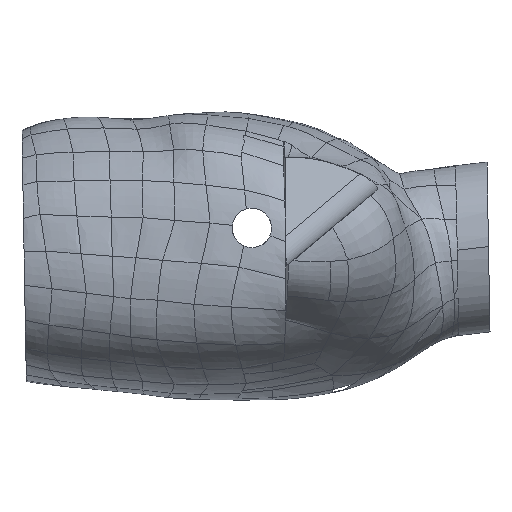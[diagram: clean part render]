
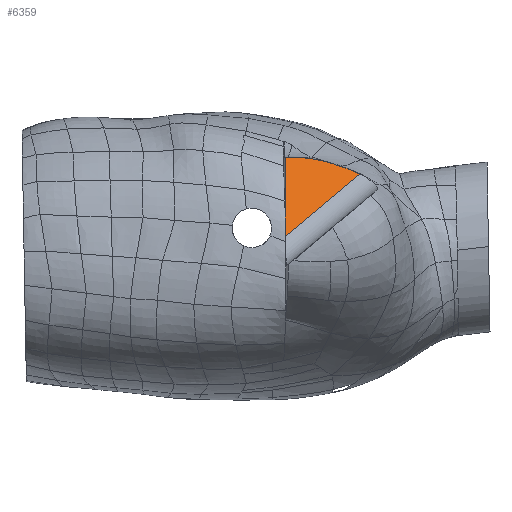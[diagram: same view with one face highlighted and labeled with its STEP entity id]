
A CAD part, left-side view. The second image highlights one B-rep face of the part: STEP entity #6359.
In plain terms, the highlighted planar face has unit normal (-0.94, -0.262, 0.22).
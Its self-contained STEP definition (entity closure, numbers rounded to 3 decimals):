
#15=PLANE('',#6608);
#251=FACE_OUTER_BOUND('',#687,.T.);
#687=EDGE_LOOP('',(#4607,#4608,#4609,#4610,#4611,#4612,#4613,#4614,#4615,
#4616,#4617));
#1279=B_SPLINE_CURVE_WITH_KNOTS('',3,(#36941,#36942,#36943,#36944,#36945,
#36946),.UNSPECIFIED.,.F.,.F.,(4,2,4),(0.,0.178,
0.317),.UNSPECIFIED.);
#1366=B_SPLINE_CURVE_WITH_KNOTS('',3,(#44841,#44842,#44843,#44844,#44845,
#44846),.UNSPECIFIED.,.F.,.F.,(4,2,4),(-1.02,-0.499,
0.),.UNSPECIFIED.);
#1368=B_SPLINE_CURVE_WITH_KNOTS('',3,(#45007,#45008,#45009,#45010,#45011,
#45012),.UNSPECIFIED.,.F.,.F.,(4,2,4),(-0.3,-0.15,
0.),.UNSPECIFIED.);
#1370=B_SPLINE_CURVE_WITH_KNOTS('',3,(#45440,#45441,#45442,#45443,#45444,
#45445,#45446,#45447),.UNSPECIFIED.,.F.,.F.,(4,2,2,4),(-0.208,
-0.116,-0.071,0.),
 .UNSPECIFIED.);
#1371=B_SPLINE_CURVE_WITH_KNOTS('',3,(#45449,#45450,#45451,#45452,#45453,
#45454,#45455,#45456),.UNSPECIFIED.,.F.,.F.,(4,2,2,4),(-0.94,
-0.628,-0.409,0.),
 .UNSPECIFIED.);
#1372=B_SPLINE_CURVE_WITH_KNOTS('',3,(#45457,#45458,#45459,#45460,#45461,
#45462,#45463,#45464,#45465,#45466),.UNSPECIFIED.,.F.,.F.,(4,2,2,2,4),(-0.809,
-0.397,-0.195,-0.097,0.),
 .UNSPECIFIED.);
#1373=B_SPLINE_CURVE_WITH_KNOTS('',3,(#45533,#45534,#45535,#45536,#45537,
#45538),.UNSPECIFIED.,.F.,.F.,(4,2,4),(0.061,2.101,
4.452),.UNSPECIFIED.);
#1375=B_SPLINE_CURVE_WITH_KNOTS('',3,(#45693,#45694,#45695,#45696,#45697,
#45698,#45699,#45700),.UNSPECIFIED.,.F.,.F.,(4,2,2,4),(-0.829,
-0.447,-0.314,-0.02),
 .UNSPECIFIED.);
#1434=B_SPLINE_CURVE_WITH_KNOTS('',3,(#51255,#51256,#51257,#51258,#51259,
#51260),.UNSPECIFIED.,.F.,.F.,(4,2,4),(0.001,0.431,
0.882),.UNSPECIFIED.);
#1435=B_SPLINE_CURVE_WITH_KNOTS('',3,(#51261,#51262,#51263,#51264,#51265,
#51266,#51267,#51268),.UNSPECIFIED.,.F.,.F.,(4,2,2,4),(0.001,
0.23,0.669,1.497),.UNSPECIFIED.);
#1934=LINE('',#51253,#1970);
#1970=VECTOR('',#6666,10.);
#2189=VERTEX_POINT('',#29535);
#2237=VERTEX_POINT('',#36940);
#2284=VERTEX_POINT('',#44832);
#2285=VERTEX_POINT('',#44840);
#2286=VERTEX_POINT('',#45006);
#2287=VERTEX_POINT('',#45439);
#2288=VERTEX_POINT('',#45448);
#2289=VERTEX_POINT('',#45531);
#2291=VERTEX_POINT('',#45676);
#2322=VERTEX_POINT('',#51252);
#2323=VERTEX_POINT('',#51254);
#2987=EDGE_CURVE('',#2237,#2189,#1279,.T.);
#3075=EDGE_CURVE('',#2285,#2284,#1366,.T.);
#3077=EDGE_CURVE('',#2284,#2286,#1368,.T.);
#3079=EDGE_CURVE('',#2287,#2237,#1370,.T.);
#3080=EDGE_CURVE('',#2288,#2287,#1371,.T.);
#3081=EDGE_CURVE('',#2286,#2288,#1372,.T.);
#3083=EDGE_CURVE('',#2189,#2289,#1373,.T.);
#3085=EDGE_CURVE('',#2289,#2291,#1375,.T.);
#3145=EDGE_CURVE('',#2291,#2322,#1934,.T.);
#3146=EDGE_CURVE('',#2323,#2322,#1434,.T.);
#3147=EDGE_CURVE('',#2285,#2323,#1435,.T.);
#4607=ORIENTED_EDGE('',*,*,#3083,.T.);
#4608=ORIENTED_EDGE('',*,*,#3085,.T.);
#4609=ORIENTED_EDGE('',*,*,#3145,.T.);
#4610=ORIENTED_EDGE('',*,*,#3146,.F.);
#4611=ORIENTED_EDGE('',*,*,#3147,.F.);
#4612=ORIENTED_EDGE('',*,*,#3075,.T.);
#4613=ORIENTED_EDGE('',*,*,#3077,.T.);
#4614=ORIENTED_EDGE('',*,*,#3081,.T.);
#4615=ORIENTED_EDGE('',*,*,#3080,.T.);
#4616=ORIENTED_EDGE('',*,*,#3079,.T.);
#4617=ORIENTED_EDGE('',*,*,#2987,.T.);
#6359=ADVANCED_FACE('',(#251),#15,.T.);
#6608=AXIS2_PLACEMENT_3D('',#51251,#6664,#6665);
#6664=DIRECTION('center_axis',(-0.94,-0.262,0.22));
#6665=DIRECTION('ref_axis',(0.228,0.,0.974));
#6666=DIRECTION('',(0.342,-0.72,0.604));
#29535=CARTESIAN_POINT('',(65.322,-214.946,-37.277));
#36940=CARTESIAN_POINT('',(67.231,-221.616,-37.08));
#36941=CARTESIAN_POINT('Ctrl Pts',(67.231,-221.616,-37.08));
#36942=CARTESIAN_POINT('Ctrl Pts',(67.063,-221.05,-37.125));
#36943=CARTESIAN_POINT('Ctrl Pts',(66.643,-219.639,-37.24));
#36944=CARTESIAN_POINT('Ctrl Pts',(65.921,-217.135,-37.34));
#36945=CARTESIAN_POINT('Ctrl Pts',(65.793,-216.661,-37.323));
#36946=CARTESIAN_POINT('Ctrl Pts',(65.48,-215.519,-37.299));
#44832=CARTESIAN_POINT('',(73.735,-247.84,-40.536));
#44840=CARTESIAN_POINT('',(75.299,-255.252,-42.73));
#44841=CARTESIAN_POINT('Ctrl Pts',(75.291,-255.257,-42.72));
#44842=CARTESIAN_POINT('Ctrl Pts',(75.051,-254.069,-42.331));
#44843=CARTESIAN_POINT('Ctrl Pts',(74.814,-252.906,-41.958));
#44844=CARTESIAN_POINT('Ctrl Pts',(74.299,-250.446,-41.227));
#44845=CARTESIAN_POINT('Ctrl Pts',(74.081,-249.417,-40.934));
#44846=CARTESIAN_POINT('Ctrl Pts',(73.734,-247.84,-40.536));
#45006=CARTESIAN_POINT('',(73.098,-244.989,-39.858));
#45007=CARTESIAN_POINT('Ctrl Pts',(73.734,-247.84,-40.536));
#45008=CARTESIAN_POINT('Ctrl Pts',(73.63,-247.365,-40.416));
#45009=CARTESIAN_POINT('Ctrl Pts',(73.525,-246.89,-40.3));
#45010=CARTESIAN_POINT('Ctrl Pts',(73.313,-245.94,-40.074));
#45011=CARTESIAN_POINT('Ctrl Pts',(73.206,-245.465,-39.964));
#45012=CARTESIAN_POINT('Ctrl Pts',(73.098,-244.99,-39.859));
#45439=CARTESIAN_POINT('',(69.567,-230.37,-37.528));
#45440=CARTESIAN_POINT('Ctrl Pts',(69.567,-230.37,-37.528));
#45441=CARTESIAN_POINT('Ctrl Pts',(69.211,-228.954,-37.364));
#45442=CARTESIAN_POINT('Ctrl Pts',(68.77,-227.22,-37.184));
#45443=CARTESIAN_POINT('Ctrl Pts',(68.199,-225.05,-37.037));
#45444=CARTESIAN_POINT('Ctrl Pts',(68.002,-224.315,-37.002));
#45445=CARTESIAN_POINT('Ctrl Pts',(67.494,-222.483,-36.989));
#45446=CARTESIAN_POINT('Ctrl Pts',(67.3,-221.841,-37.056));
#45447=CARTESIAN_POINT('Ctrl Pts',(67.231,-221.616,-37.079));
#45448=CARTESIAN_POINT('',(71.422,-237.818,-38.475));
#45449=CARTESIAN_POINT('Ctrl Pts',(71.422,-237.818,-38.475));
#45450=CARTESIAN_POINT('Ctrl Pts',(71.285,-237.265,-38.403));
#45451=CARTESIAN_POINT('Ctrl Pts',(71.172,-236.816,-38.35));
#45452=CARTESIAN_POINT('Ctrl Pts',(70.829,-235.438,-38.173));
#45453=CARTESIAN_POINT('Ctrl Pts',(70.728,-235.03,-38.119));
#45454=CARTESIAN_POINT('Ctrl Pts',(70.166,-232.763,-37.82));
#45455=CARTESIAN_POINT('Ctrl Pts',(69.898,-231.682,-37.68));
#45456=CARTESIAN_POINT('Ctrl Pts',(69.567,-230.37,-37.528));
#45457=CARTESIAN_POINT('Ctrl Pts',(73.098,-244.989,-39.858));
#45458=CARTESIAN_POINT('Ctrl Pts',(72.827,-243.871,-39.683));
#45459=CARTESIAN_POINT('Ctrl Pts',(72.577,-242.762,-39.43));
#45460=CARTESIAN_POINT('Ctrl Pts',(72.202,-241.109,-39.066));
#45461=CARTESIAN_POINT('Ctrl Pts',(72.024,-240.331,-38.896));
#45462=CARTESIAN_POINT('Ctrl Pts',(71.8,-239.37,-38.712));
#45463=CARTESIAN_POINT('Ctrl Pts',(71.724,-239.051,-38.655));
#45464=CARTESIAN_POINT('Ctrl Pts',(71.572,-238.424,-38.557));
#45465=CARTESIAN_POINT('Ctrl Pts',(71.499,-238.128,-38.516));
#45466=CARTESIAN_POINT('Ctrl Pts',(71.422,-237.818,-38.475));
#45531=CARTESIAN_POINT('',(55.371,-215.001,-79.882));
#45533=CARTESIAN_POINT('Ctrl Pts',(65.16,-214.334,-37.254));
#45534=CARTESIAN_POINT('Ctrl Pts',(63.644,-214.458,-43.882));
#45535=CARTESIAN_POINT('Ctrl Pts',(62.125,-214.572,-50.511));
#45536=CARTESIAN_POINT('Ctrl Pts',(58.85,-214.796,-64.777));
#45537=CARTESIAN_POINT('Ctrl Pts',(57.133,-214.901,-72.24));
#45538=CARTESIAN_POINT('Ctrl Pts',(55.373,-215.001,-79.882));
#45676=CARTESIAN_POINT('',(50.313,-215.176,-101.721));
#45693=CARTESIAN_POINT('Ctrl Pts',(55.367,-214.977,-79.881));
#45694=CARTESIAN_POINT('Ctrl Pts',(54.747,-214.999,-82.555));
#45695=CARTESIAN_POINT('Ctrl Pts',(53.894,-215.03,-86.239));
#45696=CARTESIAN_POINT('Ctrl Pts',(52.32,-215.093,-93.041));
#45697=CARTESIAN_POINT('Ctrl Pts',(51.758,-215.116,-95.471));
#45698=CARTESIAN_POINT('Ctrl Pts',(51.106,-215.143,-98.289));
#45699=CARTESIAN_POINT('Ctrl Pts',(50.572,-215.165,-100.599));
#45700=CARTESIAN_POINT('Ctrl Pts',(50.313,-215.176,-101.721));
#51251=CARTESIAN_POINT('Origin',(78.211,-255.525,-30.56));
#51252=CARTESIAN_POINT('',(79.149,-275.869,-50.794));
#51253=CARTESIAN_POINT('',(50.31,-215.172,-101.725));
#51254=CARTESIAN_POINT('',(77.796,-268.012,-47.214));
#51255=CARTESIAN_POINT('Ctrl Pts',(77.796,-268.012,-47.214));
#51256=CARTESIAN_POINT('Ctrl Pts',(78.036,-269.319,-47.749));
#51257=CARTESIAN_POINT('Ctrl Pts',(78.264,-270.603,-48.304));
#51258=CARTESIAN_POINT('Ctrl Pts',(78.716,-273.227,-49.497));
#51259=CARTESIAN_POINT('Ctrl Pts',(78.938,-274.555,-50.133));
#51260=CARTESIAN_POINT('Ctrl Pts',(79.149,-275.868,-50.794));
#51261=CARTESIAN_POINT('Ctrl Pts',(75.288,-255.254,-42.73));
#51262=CARTESIAN_POINT('Ctrl Pts',(75.439,-255.97,-42.941));
#51263=CARTESIAN_POINT('Ctrl Pts',(75.564,-256.574,-43.127));
#51264=CARTESIAN_POINT('Ctrl Pts',(75.972,-258.569,-43.758));
#51265=CARTESIAN_POINT('Ctrl Pts',(76.26,-260.006,-44.24));
#51266=CARTESIAN_POINT('Ctrl Pts',(76.961,-263.55,-45.468));
#51267=CARTESIAN_POINT('Ctrl Pts',(77.385,-265.764,-46.293));
#51268=CARTESIAN_POINT('Ctrl Pts',(77.796,-268.012,-47.214));
